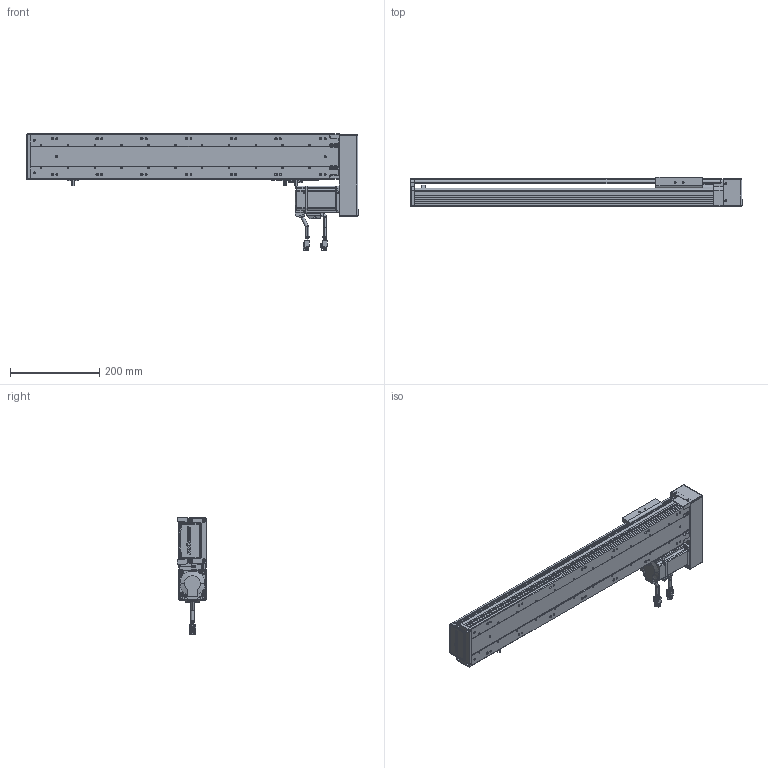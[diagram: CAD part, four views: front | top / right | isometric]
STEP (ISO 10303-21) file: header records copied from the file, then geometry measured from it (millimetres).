
FILE_DESCRIPTION (( 'STEP AP203' ), '1' );
FILE_NAME ('RY100S-L1620-300-RK(15双轨).SLDASM_500.step', '2021-02-20T08:48:04', ( '盈信电脑' ), ( '东莞市道滘镇水果街19号' ), 'SwSTEP 2.0', 'SolidWorks 2012', '' );
FILE_SCHEMA (( 'CONFIG_CONTROL_DESIGN' ));
Length unit declared in the file: millimetre
Products named in the file (25): RY100S-L1620-300-RK(15邧寢).SLDASM_500; 蚾饜极1^RY100S-L1620-300-RK(15邧寢); RY100S铝滑块（15双轨单滑块）底组装导轨; 3M30喘15遵; 侂狟200W萇儂; 6; 5; 7; 2; 1; 3; 4; RY100S转折电机安装板（15双轨）; RY100S左右折电机罩（15双轨）; 肮祭湍3M遵15笚酗282; RY80肮祭湍芢雄輸; 滅袉蝶18-24; RY100綴裔啣; RY80肮祭湍覃踡啣; RY100俋离覜茼え; 滅袉蝶18-10; 覜茼ん672; RY100S转折电机端支撑座(15双轨); RY100S-350-LK型材底座(低组15双轨)_500; RY100S-300-LK转折型材上盖(15双轨)_500
Assembly tree (27 placements, depth 4):
  RY100S-L1620-300-RK(15邧寢).SLDASM_500
    RY100S-350-LK型材底座(低组15双轨)_500
    RY100S-300-LK转折型材上盖(15双轨)_500
    覜茼ん672  x3
    滅袉蝶18-10
    RY100俋离覜茼え
    RY100S转折电机端支撑座(15双轨)
    滅袉蝶18-24
    RY100綴裔啣
    蚾饜极1^RY100S-L1620-300-RK(15邧寢)
      RY80肮祭湍覃踡啣
      RY80肮祭湍芢雄輸  x2
      RY100S左右折电机罩（15双轨）
      RY100S转折电机安装板（15双轨）
      肮祭湍3M遵15笚酗282
      侂狟200W萇儂
        1
        2
        3
        4
        5
        6
        7
      3M30喘15遵
    RY100S铝滑块（15双轨单滑块）底组装导轨
Bounding box: 742.5 x 65 x 263.3 mm (x, y, z)
Volume: 1922973.7 mm3; surface area: 740908.8 mm2
Topology: 25 solids, 25 shells, 3230 faces, 8701 edges, 5608 vertices
Faces by surface type: plane 1706, cylinder 1241, cone 169, bspline 114
Entity records: 105044 total; most frequent: CARTESIAN_POINT 26153, ORIENTED_EDGE 16106, DIRECTION 15596, EDGE_CURVE 8053, AXIS2_PLACEMENT_3D 5317, VERTEX_POINT 5244, LINE 4962, VECTOR 4962
